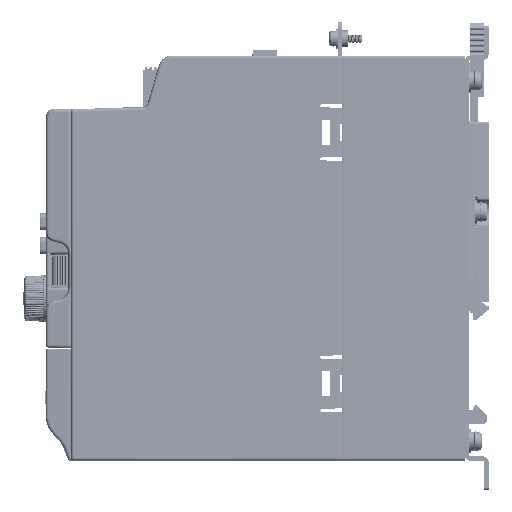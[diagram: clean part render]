
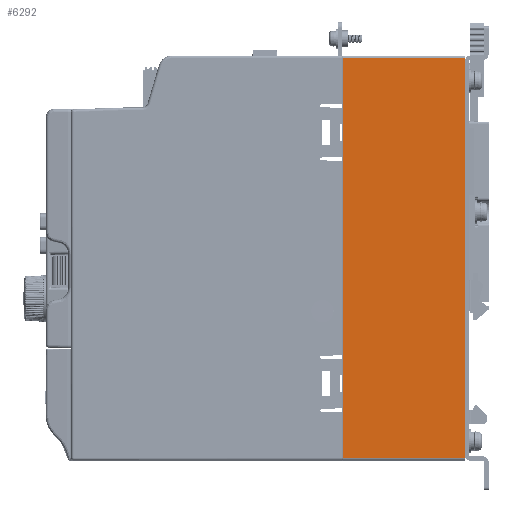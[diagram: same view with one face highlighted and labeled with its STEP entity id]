
A CAD part, left-side view. The second image highlights one B-rep face of the part: STEP entity #6292.
In plain terms, the highlighted planar face has unit normal (-1, 0, 0).
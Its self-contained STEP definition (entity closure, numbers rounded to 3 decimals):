
#877=DIRECTION('',(0.,1.,0.));
#878=VECTOR('',#877,43.8);
#879=CARTESIAN_POINT('',(-47.5,-44.,71.5));
#880=LINE('',#879,#878);
#896=DIRECTION('',(0.,0.,1.));
#897=VECTOR('',#896,143.);
#898=CARTESIAN_POINT('',(-47.5,-44.,-71.5));
#899=LINE('',#898,#897);
#2006=DIRECTION('',(0.,-1.,0.));
#2007=VECTOR('',#2006,43.8);
#2008=CARTESIAN_POINT('',(-47.5,-0.2,-71.5));
#2009=LINE('',#2008,#2007);
#2361=DIRECTION('',(0.,0.,-1.));
#2362=VECTOR('',#2361,143.);
#2363=CARTESIAN_POINT('',(-47.5,-0.2,71.5));
#2364=LINE('',#2363,#2362);
#2816=CARTESIAN_POINT('',(-47.5,-0.2,71.5));
#2817=VERTEX_POINT('',#2816);
#2818=CARTESIAN_POINT('',(-47.5,-44.,71.5));
#2819=VERTEX_POINT('',#2818);
#2824=CARTESIAN_POINT('',(-47.5,-44.,-71.5));
#2825=VERTEX_POINT('',#2824);
#2922=CARTESIAN_POINT('',(-47.5,-0.2,-71.5));
#2923=VERTEX_POINT('',#2922);
#6281=CARTESIAN_POINT('',(-47.5,0.,-72.5));
#6282=DIRECTION('',(-1.,0.,0.));
#6283=DIRECTION('',(0.,-1.,0.));
#6284=AXIS2_PLACEMENT_3D('',#6281,#6282,#6283);
#6285=PLANE('',#6284);
#6286=ORIENTED_EDGE('',*,*,#6266,.F.);
#6287=ORIENTED_EDGE('',*,*,#3473,.F.);
#6288=ORIENTED_EDGE('',*,*,#3499,.F.);
#6289=ORIENTED_EDGE('',*,*,#5619,.F.);
#6290=EDGE_LOOP('',(#6286,#6287,#6288,#6289));
#6291=FACE_OUTER_BOUND('',#6290,.F.);
#6292=ADVANCED_FACE('',(#6291),#6285,.T.);
#3473=EDGE_CURVE('',#2819,#2817,#880,.T.);
#3499=EDGE_CURVE('',#2825,#2819,#899,.T.);
#5619=EDGE_CURVE('',#2923,#2825,#2009,.T.);
#6266=EDGE_CURVE('',#2817,#2923,#2364,.T.);
